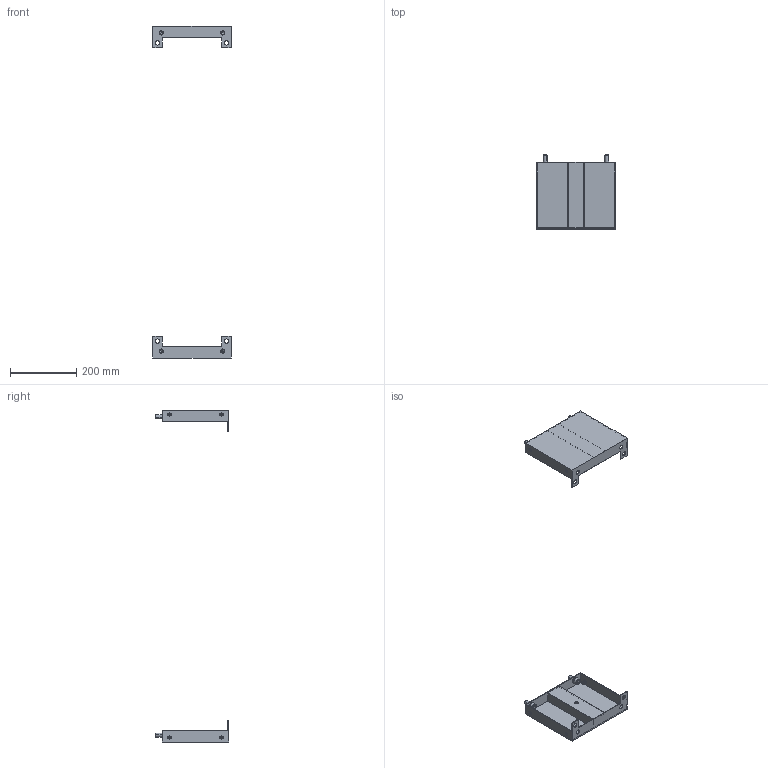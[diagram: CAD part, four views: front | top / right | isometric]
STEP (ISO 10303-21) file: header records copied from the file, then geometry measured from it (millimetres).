
FILE_DESCRIPTION (( 'STEP AP203' ), '1' );
FILE_NAME ('R6PLB30-200 H=1000 SIMPLE.STEP', '2026-07-22T11:12:31', ( '' ), ( '' ), 'SwSTEP 2.0', 'SolidWorks 2022', '' );
FILE_SCHEMA (( 'CONFIG_CONTROL_DESIGN' ));
Length unit declared in the file: millimetre
Products named in the file (8): M6 MGS-MPO-0635_straight; 12 DIN 6798 A Zinc; РГМЦ.RB.3309.00.02.0 simple_-01; M12x25 DIN 912 HX cl.8,8 Zinc_stright; РГМЦ.RB.3309.00.00.0 СБ SIMPLE 04-07_-05; M6 MGS-MPO-0635_thread; РГМЦ.RB.3309.00.01.0 simple_-05; R6PLB30-200 H=1000 SIMPLE
Assembly tree (17 placements, depth 3):
  R6PLB30-200 H=1000 SIMPLE
    РГМЦ.RB.3309.00.00.0 СБ SIMPLE 04-07_-05  x2
      РГМЦ.RB.3309.00.01.0 simple_-05
      M6 MGS-MPO-0635_thread
      РГМЦ.RB.3309.00.02.0 simple_-01
      M6 MGS-MPO-0635_straight
    12 DIN 6798 A Zinc  x4
    M12x25 DIN 912 HX cl.8,8 Zinc_stright  x4
Bounding box: 236.7 x 221.5 x 1000 mm (x, y, z)
Volume: 506136.6 mm3; surface area: 413810 mm2
Topology: 22 solids, 22 shells, 1312 faces, 3460 edges, 1984 vertices
Faces by surface type: plane 488, cylinder 484, bspline 152, sphere 120, cone 36, torus 32
Entity records: 13308 total; most frequent: CARTESIAN_POINT 5037, ORIENTED_EDGE 1540, DIRECTION 1405, EDGE_CURVE 770, VERTEX_POINT 482, AXIS2_PLACEMENT_3D 471, VECTOR 463, LINE 463
